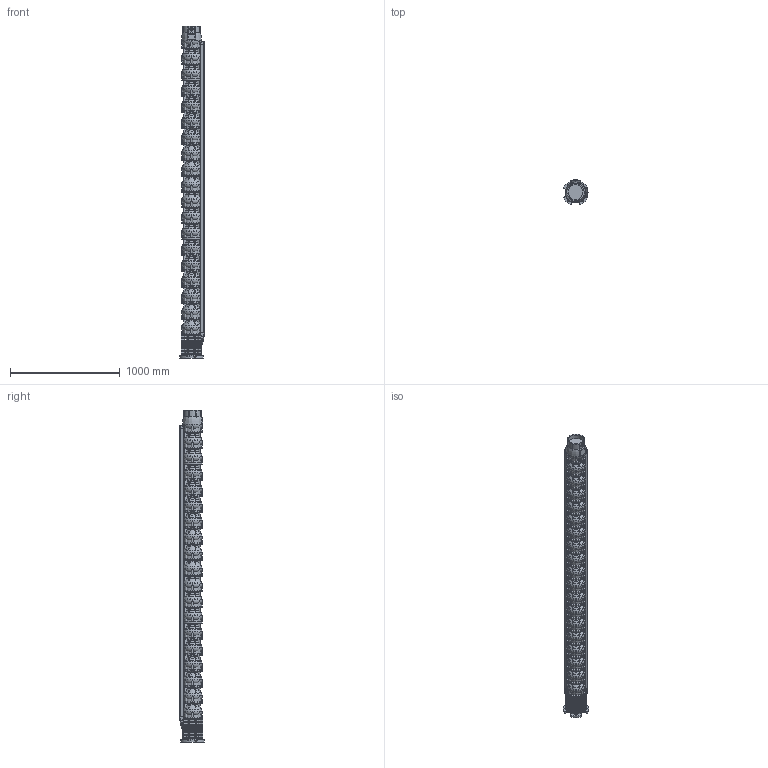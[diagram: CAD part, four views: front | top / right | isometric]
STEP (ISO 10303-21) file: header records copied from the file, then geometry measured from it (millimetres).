
FILE_DESCRIPTION(/* description */ ('Unknown'),/* implementation_level */ '2;1');
FILE_NAME(/* name */ 'VSI134-18_WR_M10-50_SME',/* time_stamp */ '2023-09-14T14:53:18+02:00',/* author */ ('Unknown'),/* organization */ ('Unknown'),/* preprocessor_version */ 'ST-DEVELOPER v18.102',/* originating_system */ 'Solid Edge',/* authorisation */ 'Unknown');
FILE_SCHEMA (('AUTOMOTIVE_DESIGN {1 0 10303 214 3 1 1}'));
Products named in the file (12): VSI134-18_WR_M10-50_SME; VSI134_testata; VSI134_diffusore; VSI134_supporto_8×8; VSI134_adattatore_8×10; VSI134_filtro_A; VSI134_filtro_B; VSI134_terminale_top_copricavo_medio; VSI134_terminale_bottom_copricavo_medio; MID 134-18; M5X8_UNI7687; VSI134_giunto_8×10
Assembly tree (42 placements, depth 2):
  VSI134-18_WR_M10-50_SME
    VSI134_testata
    VSI134_diffusore  x18
    VSI134_supporto_8×8
    VSI134_adattatore_8×10
    VSI134_filtro_A
    VSI134_filtro_B
    VSI134_terminale_top_copricavo_medio  x2
    VSI134_terminale_bottom_copricavo_medio  x2
    MID 134-18  x2
    M5X8_UNI7687  x12
    VSI134_giunto_8×10
Bounding box: 221.78 x 221.78 x 3028 mm (x, y, z)
Volume: 57058769.8 mm3; surface area: 5088151.1 mm2
Topology: 81 solids, 83 shells, 5587 faces, 15713 edges, 10496 vertices
Faces by surface type: plane 3921, torus 830, cylinder 716, cone 75, bspline 31, sphere 14
Full cylindrical faces by diameter (mm): 2.4 x2, 3 x2, 4.2 x16, 5 x12, 5.5 x8, 14 x4, 16 x4, 17.5 x4, 26 x1, 30 x4, 44 x1, 65 x1, 69 x1, 74 x1, 84 x1, 98 x1, 127 x2, 135.472 x1, 157 x1, 182 x19
Entity records: 85419 total; most frequent: CARTESIAN_POINT 18307, ORIENTED_EDGE 13946, DIRECTION 13478, EDGE_CURVE 6973, VERTEX_POINT 4707, AXIS2_PLACEMENT_3D 4617, LINE 4244, VECTOR 4244
